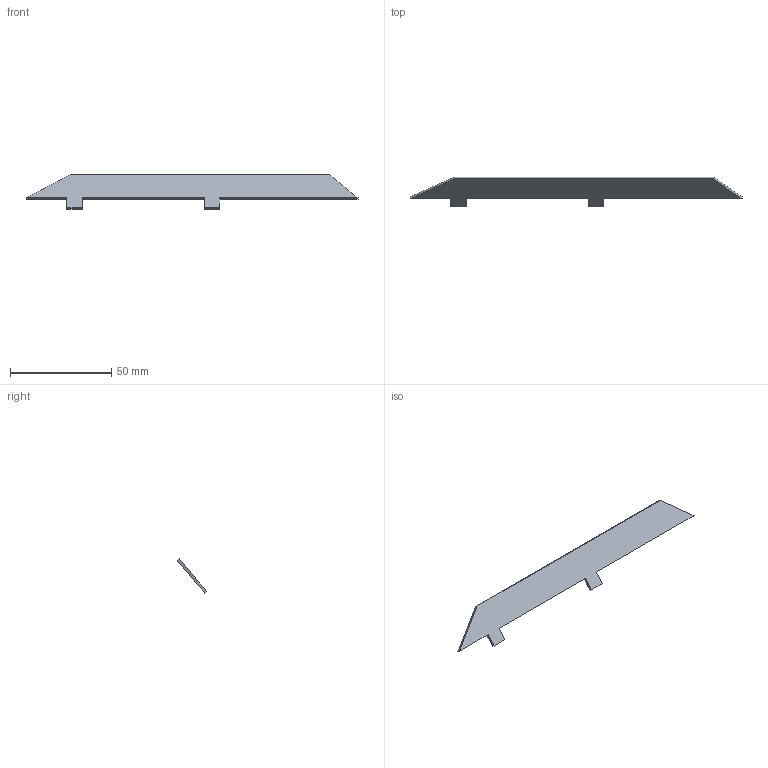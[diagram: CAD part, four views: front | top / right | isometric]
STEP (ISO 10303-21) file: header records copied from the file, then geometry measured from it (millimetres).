
FILE_DESCRIPTION(('Open CASCADE Model'),'2;1');
FILE_NAME('Open CASCADE Shape Model','2026-10-21T17:27:39',('Author'),( 'Open CASCADE'),'Open CASCADE STEP processor 7.9','Open CASCADE 7.9' ,'Unknown');
FILE_SCHEMA(('AUTOMOTIVE_DESIGN { 1 0 10303 214 1 1 1 1 }'));
Length unit declared in the file: millimetre
Products named in the file (1): Open CASCADE STEP translator 7.9 13
Bounding box: 164 x 14.67 x 17.16 mm (x, y, z)
Volume: 2744.7 mm3; surface area: 5012.3 mm2
Topology: 1 solids, 1 shells, 14 faces, 36 edges, 24 vertices
Faces by surface type: plane 14
Entity records: 898 total; most frequent: CARTESIAN_POINT 147, DIRECTION 138, LINE 108, VECTOR 108, ORIENTED_EDGE 72, PCURVE 72, DEFINITIONAL_REPRESENTATION 72, EDGE_CURVE 36
